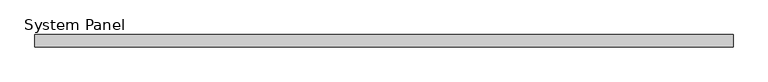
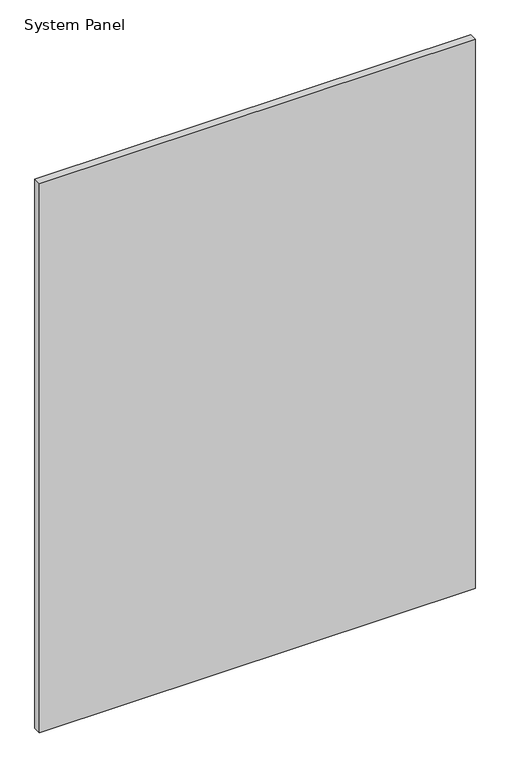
"""IFC4 building model written with IfcOpenShell, lengths in millimetres: plate geometry, System Panel : Panel_Glazed_Generic Showcase_30mm."""

from ifc_helpers import new_model, si_unit, origin, origin_with_axes, place, context, project, spatial, polyline, outline, extrude, source, transform, mapped, element, save


def system_panel_7d814cf8(model_context):
    return source(origin(), model_context, "Body", "SweptSolid", [
        extrude(outline(polyline([(862.5, 0.0), (-862.5, 0.0), (-862.5, 30.0), (862.5, 30.0), (862.5, 0.0)])), origin_with_axes(), (0.0, 0.0, 1.0), 2300.0),
    ])


if __name__ == "__main__":
    model = new_model("IFC4")
    model_context = context("Model", 3, world=origin())
    ifc_project = project(units=[si_unit("LENGTHUNIT", "METRE", prefix="MILLI")], contexts=[model_context])
    site = spatial("IfcSite", under=ifc_project)
    building = spatial("IfcBuilding", under=site)
    placement = place(None, origin())
    system_panel_shape = system_panel_7d814cf8(model_context)
    element("IfcPlate", 1, ObjectType="System Panel : Panel_Glazed_Generic Showcase_30mm", at=placement, inside=building, context=model_context, shape_type="MappedRepresentation", body=[
        mapped(system_panel_shape, transform((0.0, 0.0, 0.0), x_axis=(1.0, 0.0, 0.0), y_axis=(0.0, 1.0, 0.0), z_axis=(0.0, 0.0, 1.0))),
    ])
    save(model, "model.ifc")
